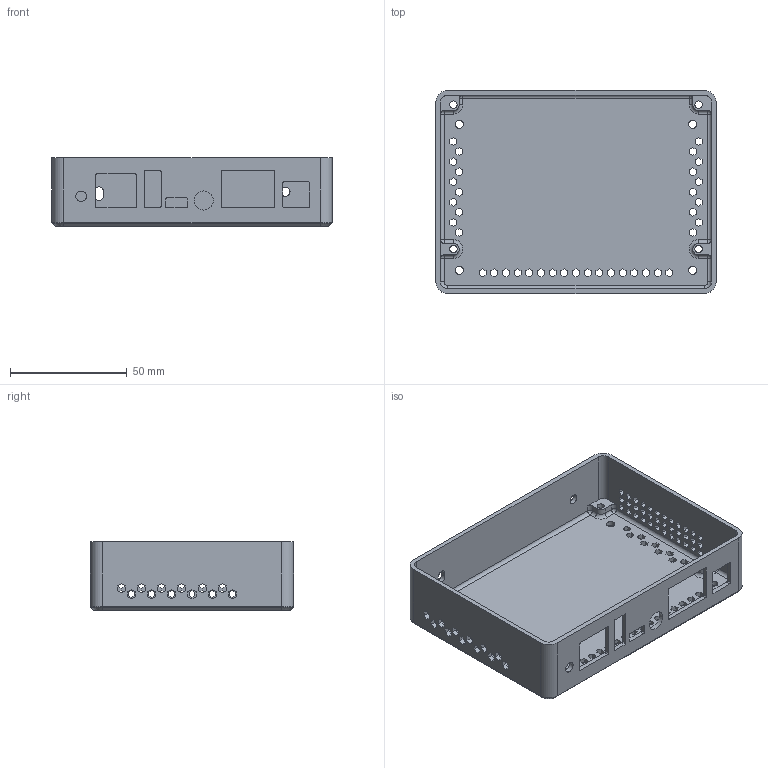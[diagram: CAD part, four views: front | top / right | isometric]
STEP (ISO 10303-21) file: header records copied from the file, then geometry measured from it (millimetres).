
FILE_DESCRIPTION(/* description */ ('STEP AP214'),/* implementation_level */ '2;1');
FILE_NAME(/* name */ 'CASE_UT.stp',/* time_stamp */ '2026-03-11T19:58:43+01:00',/* author */ ('Mischl'),/* organization */ (''),/* preprocessor_version */ 'ST-DEVELOPER v19.2',/* originating_system */ 'Autodesk Inventor 2024',/* authorisation */ '');
FILE_SCHEMA (('AUTOMOTIVE_DESIGN { 1 0 10303 214 3 1 1 }'));
Products named in the file (3): CASE; Gehäuse_UT^CASE; Gitter_UT^CASE
Assembly tree (2 placements, depth 2):
  CASE
    Gehäuse_UT^CASE
    Gitter_UT^CASE
Bounding box: 120 x 87 x 29.5 mm (x, y, z)
Volume: 46440.8 mm3; surface area: 58257.5 mm2
Topology: 2 solids, 2 shells, 2757 faces, 8197 edges, 5442 vertices
Faces by surface type: plane 2624, cylinder 107, cone 8, torus 8, sphere 8, bspline 2
Full cylindrical faces by diameter (mm): 3.15 x4, 3.5 x8, 4 x1, 4.5 x1, 6 x4, 8.2 x1
Entity records: 92472 total; most frequent: CARTESIAN_POINT 16410, ORIENTED_EDGE 16378, DIRECTION 13947, EDGE_CURVE 8189, LINE 7953, VECTOR 7953, VERTEX_POINT 5442, EDGE_LOOP 3657
